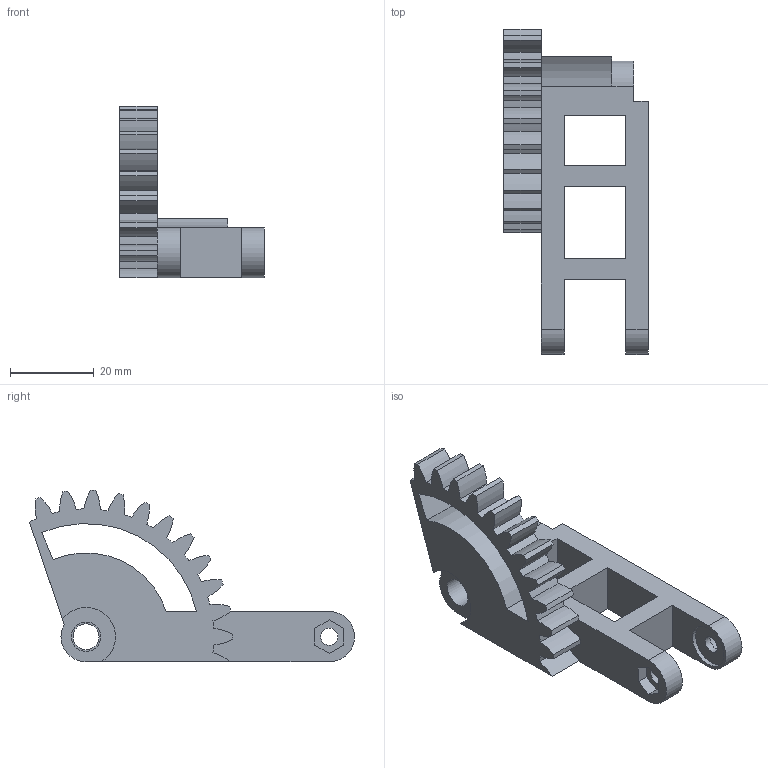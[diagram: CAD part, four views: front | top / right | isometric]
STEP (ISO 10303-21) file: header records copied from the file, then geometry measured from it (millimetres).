
FILE_DESCRIPTION (( 'STEP AP214' ), '1' );
FILE_NAME ('left-drive-gear-and-bearing.step', '2026-11-14T03:54:39', ( '' ), ( '' ), 'SwSTEP 2.0', 'SolidWorks 2024', '' );
FILE_SCHEMA (( 'AUTOMOTIVE_DESIGN' ));
Length unit declared in the file: millimetre
Products named in the file (2): left-drive-gear-and-bearing; 零件1^gear_left_bearing
Assembly tree (1 placements, depth 2):
  left-drive-gear-and-bearing
    零件1^gear_left_bearing
Bounding box: 34.5 x 77.49 x 40.98 mm (x, y, z)
Volume: 20306.3 mm3; surface area: 10916.5 mm2
Topology: 1 solids, 1 shells, 94 faces, 265 edges, 177 vertices
Faces by surface type: cylinder 61, plane 33
Full cylindrical faces by diameter (mm): 4.1 x2, 6.16 x1, 7 x1, 8 x1, 10.5 x2
Entity records: 3118 total; most frequent: DIRECTION 575, CARTESIAN_POINT 527, ORIENTED_EDGE 510, EDGE_CURVE 255, AXIS2_PLACEMENT_3D 222, VERTEX_POINT 174, LINE 131, VECTOR 131
